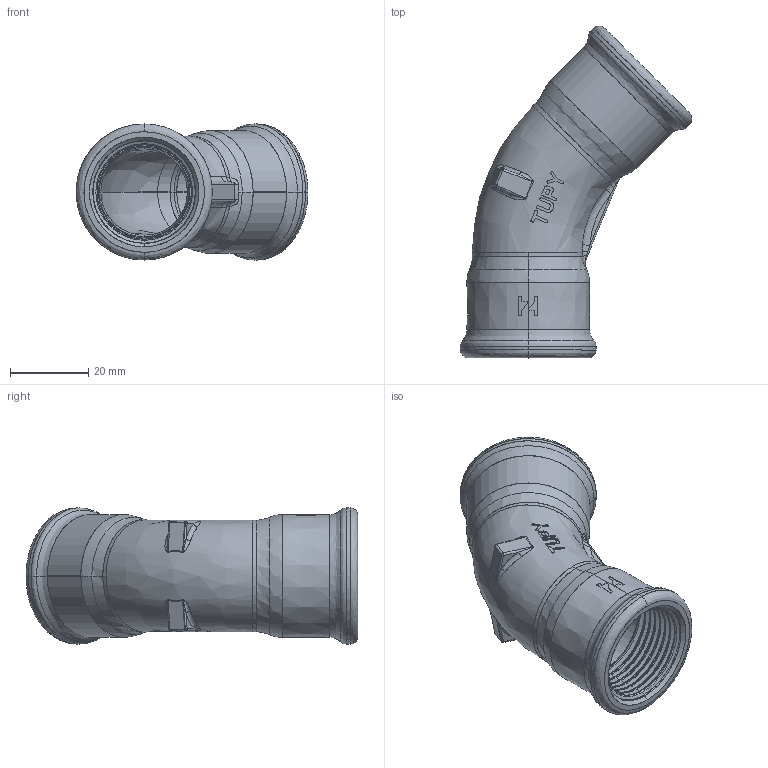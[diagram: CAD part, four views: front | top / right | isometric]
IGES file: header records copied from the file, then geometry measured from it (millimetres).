
Start section: SolidWorks IGES file using analytic representation for surfaces
Global section: file name: C:\Users\Joel Rosa\Desktop\Tubulação\12-26-OK\12-26-006.IGS; native system: SolidWorks 2011; preprocessor: SolidWorks 2011; author: Joel Rosa; date: 131025.194305; units: millimetre
Bounding box: 59.27 x 84.87 x 34.8 mm (x, y, z)
Surface area: 16765.6 mm2 (no closed solid volume)
Topology: 0 solids, 0 shells, 402 faces, 3335 edges, 3331 vertices
Faces by surface type: bspline 286, revolution 116
